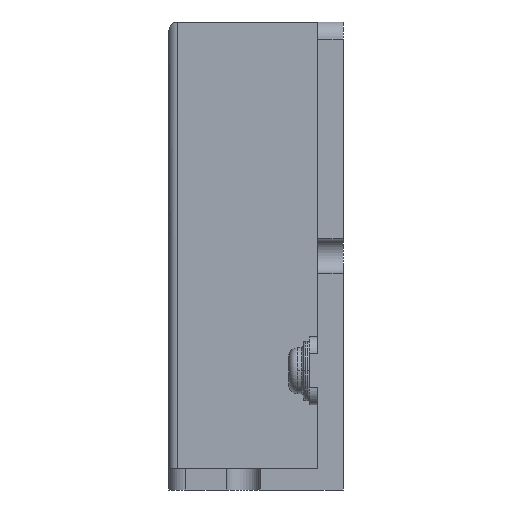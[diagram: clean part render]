
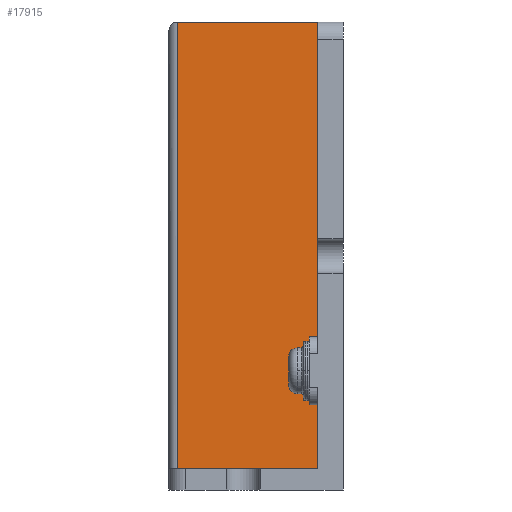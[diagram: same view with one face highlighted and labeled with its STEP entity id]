
A CAD part, left-side view. The second image highlights one B-rep face of the part: STEP entity #17915.
In plain terms, the highlighted planar face has unit normal (-1, 0, 0).
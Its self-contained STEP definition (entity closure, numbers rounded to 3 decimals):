
#7278=CARTESIAN_POINT('',(-36.,16.5,0.));
#7279=VERTEX_POINT('',#7278);
#7286=CARTESIAN_POINT('',(-36.,0.,0.));
#7287=VERTEX_POINT('',#7286);
#7288=CARTESIAN_POINT('',(-36.,16.5,0.));
#7289=DIRECTION('',(0.,-1.,0.));
#7290=VECTOR('',#7289,16.5);
#7291=LINE('',#7288,#7290);
#7292=EDGE_CURVE('',#7279,#7287,#7291,.T.);
#7428=CARTESIAN_POINT('',(-36.,0.,-37.));
#7429=VERTEX_POINT('',#7428);
#7430=CARTESIAN_POINT('',(-36.,0.,0.));
#7431=DIRECTION('',(0.,0.,-1.));
#7432=VECTOR('',#7431,37.);
#7433=LINE('',#7430,#7432);
#7434=EDGE_CURVE('',#7287,#7429,#7433,.T.);
#17766=CARTESIAN_POINT('',(-36.,16.5,-52.5));
#17767=VERTEX_POINT('',#17766);
#17768=CARTESIAN_POINT('',(-36.,16.5,-52.5));
#17769=DIRECTION('',(0.,0.,1.));
#17770=VECTOR('',#17769,52.5);
#17771=LINE('',#17768,#17770);
#17772=EDGE_CURVE('',#17767,#7279,#17771,.T.);
#17857=CARTESIAN_POINT('',(-36.,0.,-52.5));
#17858=VERTEX_POINT('',#17857);
#17865=CARTESIAN_POINT('',(-36.,0.,-52.5));
#17866=DIRECTION('',(0.,1.,0.));
#17867=VECTOR('',#17866,16.5);
#17868=LINE('',#17865,#17867);
#17869=EDGE_CURVE('',#17858,#17767,#17868,.T.);
#17874=CARTESIAN_POINT('',(-36.,8.25,-26.25));
#17875=DIRECTION('',(0.,0.,1.));
#17876=DIRECTION('',(-1.,0.,0.));
#17877=AXIS2_PLACEMENT_3D('',#17874,#17876,#17875);
#17878=PLANE('',#17877);
#17879=CARTESIAN_POINT('',(-36.,0.,-45.));
#17880=VERTEX_POINT('',#17879);
#17881=CARTESIAN_POINT('',(-36.,0.,-52.5));
#17882=DIRECTION('',(0.,0.,1.));
#17883=VECTOR('',#17882,7.5);
#17884=LINE('',#17881,#17883);
#17885=EDGE_CURVE('',#17858,#17880,#17884,.T.);
#17886=ORIENTED_EDGE('E1160',*,*,#17885,.T.);
#17887=CARTESIAN_POINT('',(-36.,1.,-45.));
#17888=VERTEX_POINT('',#17887);
#17889=CARTESIAN_POINT('',(-36.,0.,-45.));
#17890=DIRECTION('',(0.,1.,0.));
#17891=VECTOR('',#17890,1.);
#17892=LINE('',#17889,#17891);
#17893=EDGE_CURVE('',#17880,#17888,#17892,.T.);
#17894=ORIENTED_EDGE('E1161',*,*,#17893,.T.);
#17895=CARTESIAN_POINT('',(-36.,1.,-37.));
#17896=VERTEX_POINT('',#17895);
#17897=CARTESIAN_POINT('',(-36.,1.,-45.));
#17898=DIRECTION('',(0.,0.,1.));
#17899=VECTOR('',#17898,8.);
#17900=LINE('',#17897,#17899);
#17901=EDGE_CURVE('',#17888,#17896,#17900,.T.);
#17902=ORIENTED_EDGE('E1162',*,*,#17901,.T.);
#17903=CARTESIAN_POINT('',(-36.,1.,-37.));
#17904=DIRECTION('',(0.,-1.,0.));
#17905=VECTOR('',#17904,1.);
#17906=LINE('',#17903,#17905);
#17907=EDGE_CURVE('',#17896,#7429,#17906,.T.);
#17908=ORIENTED_EDGE('E1163',*,*,#17907,.T.);
#17909=ORIENTED_EDGE('E1163',*,*,#7434,.F.);
#17910=ORIENTED_EDGE('E1163',*,*,#7292,.F.);
#17911=ORIENTED_EDGE('E1163',*,*,#17772,.F.);
#17912=ORIENTED_EDGE('E1163',*,*,#17869,.F.);
#17913=EDGE_LOOP('',(#17886,#17894,#17902,#17908,#17909,#17910,#17911,#17912));
#17914=FACE_OUTER_BOUND('',#17913,.T.);
#17915=ADVANCED_FACE('F229',(#17914),#17878,.T.);
